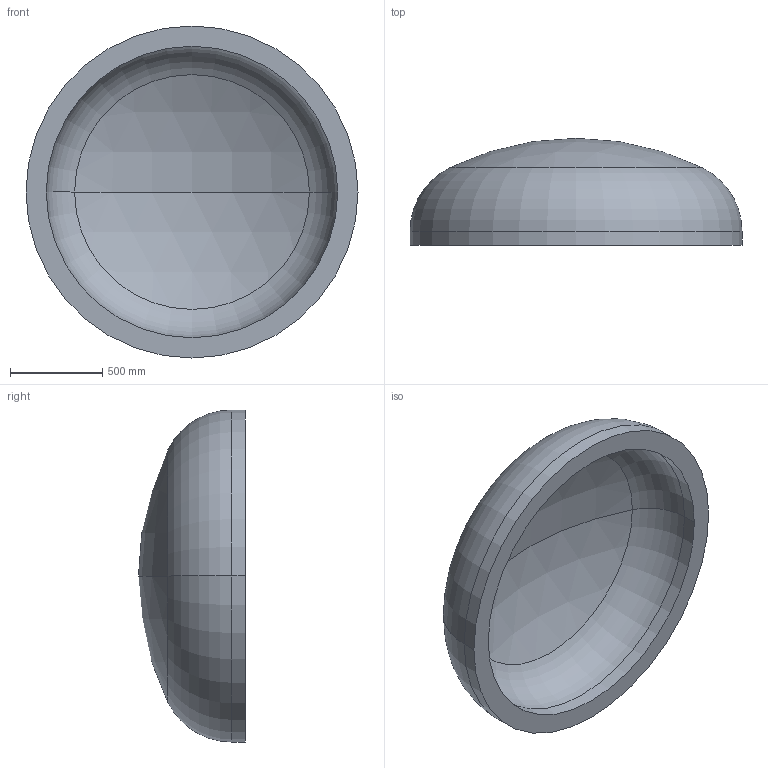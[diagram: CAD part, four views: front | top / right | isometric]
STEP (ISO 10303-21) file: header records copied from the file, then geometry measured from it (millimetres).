
FILE_DESCRIPTION (( 'STEP AP203' ), '1' );
FILE_NAME ('DIN 28013 Korbbogenform_-_Boden DIN 28013 - 1800 x 75 - I - s=110.step', '2016-07-01T12:47:32', ( '' ), ( '' ), 'SwSTEP 2.0', 'SolidWorks 2013', '' );
FILE_SCHEMA (( 'CONFIG_CONTROL_DESIGN' ));
Length unit declared in the file: millimetre
Products named in the file (1): DIN 28013 Korbbogenform_-_Boden DIN 28013 - 1800 x 75 - I - s=110
Bounding box: 1800 x 580.01 x 1800 mm (x, y, z)
Volume: 401864369.9 mm3; surface area: 7915987.3 mm2
Topology: 1 solids, 1 shells, 13 faces, 24 edges, 14 vertices
Faces by surface type: torus 4, cylinder 4, sphere 4, plane 1
Entity records: 407 total; most frequent: DIRECTION 72, CARTESIAN_POINT 52, ORIENTED_EDGE 48, AXIS2_PLACEMENT_3D 34, EDGE_CURVE 24, CIRCLE 20, VERTEX_POINT 14, EDGE_LOOP 14
